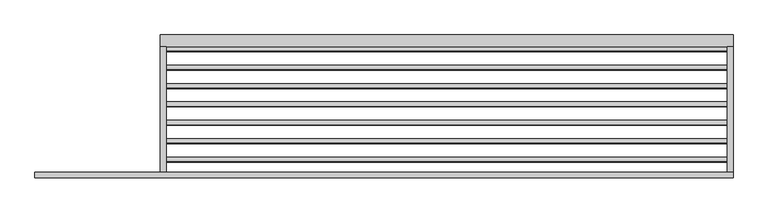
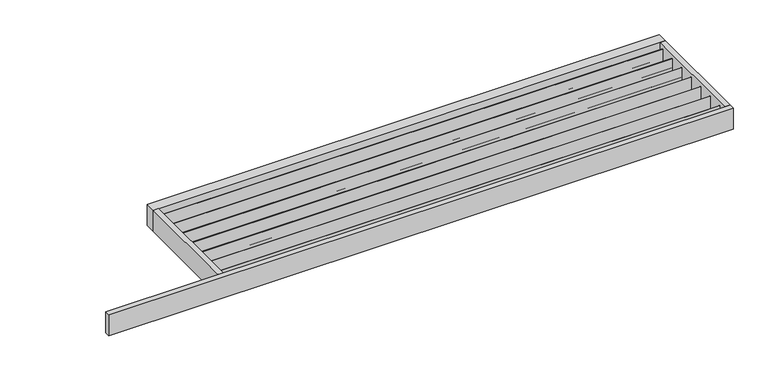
"""IFC4 building model written with IfcOpenShell, lengths in millimetres: proxy geometry, Renson_Amani_Canopy : Renson_Amani_Canopy."""

from ifc_helpers import new_model, si_unit, frame, origin, place, context, project, spatial, polyline, outline, extrude, source, transform, mapped, element, save


def generic_models_1129b3c2(model_context):
    return source(origin(), model_context, "Body", "SweptSolid", [
        extrude(outline(polyline([(-731.0, -99.0), (-731.0, -150.0), (-761.0, -150.0), (-761.0, -27.0), (-759.0, -27.0), (-759.0, -92.0), (-731.0, -99.0)])), frame((35.0, 0.0, 0.0), z_axis=(1.0, 0.0, 0.0), x_axis=(0.0, 1.0, 0.0)), (0.0, 0.0, 1.0), 3355.0),
        extrude(outline(polyline([(-621.0, -99.0), (-621.0, -150.0), (-651.0, -150.0), (-651.0, -27.0), (-649.0, -27.0), (-649.0, -92.0), (-621.0, -99.0)])), frame((35.0, 0.0, 0.0), z_axis=(1.0, 0.0, 0.0), x_axis=(0.0, 1.0, 0.0)), (0.0, 0.0, 1.0), 3355.0),
        extrude(outline(polyline([(-511.0, -99.0), (-511.0, -150.0), (-541.0, -150.0), (-541.0, -27.0), (-539.0, -27.0), (-539.0, -92.0), (-511.0, -99.0)])), frame((35.0, 0.0, 0.0), z_axis=(1.0, 0.0, 0.0), x_axis=(0.0, 1.0, 0.0)), (0.0, 0.0, 1.0), 3355.0),
        extrude(outline(polyline([(-401.0, -99.0), (-401.0, -150.0), (-431.0, -150.0), (-431.0, -27.0), (-429.0, -27.0), (-429.0, -92.0), (-401.0, -99.0)])), frame((35.0, 0.0, 0.0), z_axis=(1.0, 0.0, 0.0), x_axis=(0.0, 1.0, 0.0)), (0.0, 0.0, 1.0), 3355.0),
        extrude(outline(polyline([(-291.0, -99.0), (-291.0, -150.0), (-321.0, -150.0), (-321.0, -27.0), (-319.0, -27.0), (-319.0, -92.0), (-291.0, -99.0)])), frame((35.0, 0.0, 0.0), z_axis=(1.0, 0.0, 0.0), x_axis=(0.0, 1.0, 0.0)), (0.0, 0.0, 1.0), 3355.0),
        extrude(outline(polyline([(-181.0, -99.0), (-181.0, -150.0), (-211.0, -150.0), (-211.0, -27.0), (-209.0, -27.0), (-209.0, -92.0), (-181.0, -99.0)])), frame((35.0, 0.0, 0.0), z_axis=(1.0, 0.0, 0.0), x_axis=(0.0, 1.0, 0.0)), (0.0, 0.0, 1.0), 3355.0),
        extrude(outline(polyline([(-71.0, -99.0), (-71.0, -150.0), (-101.0, -150.0), (-101.0, -27.0), (-99.0, -27.0), (-99.0, -92.0), (-71.0, -99.0)])), frame((35.0, 0.0, 0.0), z_axis=(1.0, 0.0, 0.0), x_axis=(0.0, 1.0, 0.0)), (0.0, 0.0, 1.0), 3355.0),
        extrude(outline(polyline([(3425.0, -855.0), (-750.0, -855.0), (-750.0, -820.0), (3425.0, -820.0), (3425.0, -855.0)])), frame((0.0, 0.0, -150.0), z_axis=(0.0, 0.0, 1.0), x_axis=(1.0, 0.0, 0.0)), (0.0, 0.0, 1.0), 150.0),
        extrude(outline(polyline([(3425.0, -70.0), (3425.0, -820.0), (3390.0, -820.0), (3390.0, -70.0), (3425.0, -70.0)])), frame((0.0, 0.0, -150.0), z_axis=(0.0, 0.0, 1.0), x_axis=(1.0, 0.0, 0.0)), (0.0, 0.0, 1.0), 150.0),
        extrude(outline(polyline([(35.0, -70.0), (35.0, -820.0), (0.0, -820.0), (0.0, -70.0), (35.0, -70.0)])), frame((0.0, 0.0, -150.0), z_axis=(0.0, 0.0, 1.0), x_axis=(1.0, 0.0, 0.0)), (0.0, 0.0, 1.0), 150.0),
        extrude(outline(polyline([(3425.0, -70.0), (0.0, -70.0), (0.0, 0.0), (3425.0, 0.0), (3425.0, -70.0)])), frame((0.0, 0.0, -150.0), z_axis=(0.0, 0.0, 1.0), x_axis=(1.0, 0.0, 0.0)), (0.0, 0.0, 1.0), 150.0),
    ])


if __name__ == "__main__":
    model = new_model("IFC4")
    model_context = context("Model", 3, world=origin())
    ifc_project = project(units=[si_unit("LENGTHUNIT", "METRE", prefix="MILLI")], contexts=[model_context])
    site = spatial("IfcSite", under=ifc_project)
    building = spatial("IfcBuilding", under=site)
    placement = place(None, origin())
    generic_models_shape = generic_models_1129b3c2(model_context)
    element("IfcBuildingElementProxy", 1, Name="Renson_Amani_Canopy : Renson_Amani_Canopy", ObjectType="Renson_Amani_Canopy : Renson_Amani_Canopy", at=placement, inside=building, context=model_context, shape_type="MappedRepresentation", body=[
        mapped(generic_models_shape, transform((0.0, 0.0, 0.0), x_axis=(1.0, 0.0, 0.0), y_axis=(0.0, 1.0, 0.0), z_axis=(0.0, 0.0, 1.0))),
    ])
    save(model, "model.ifc")
